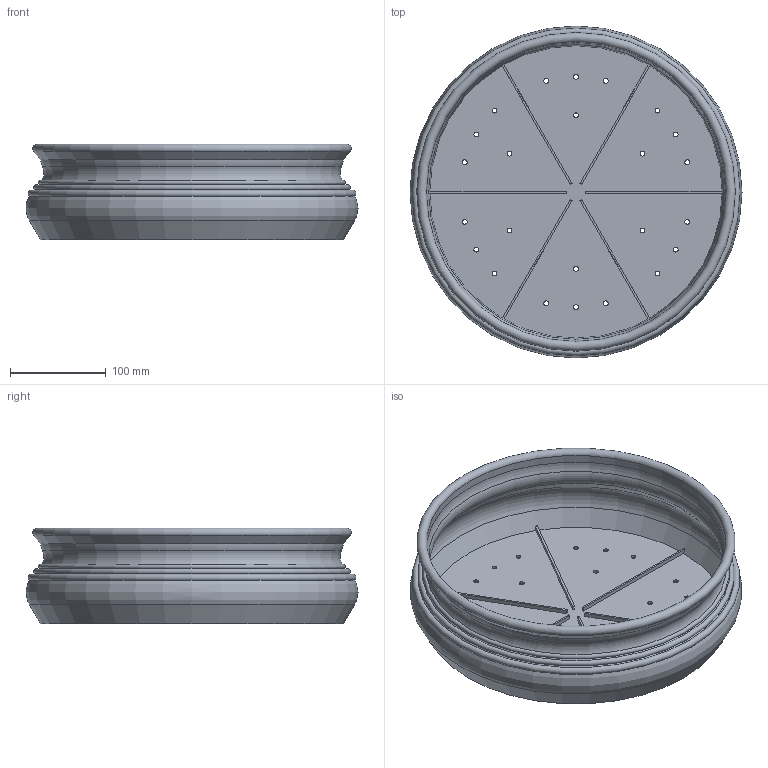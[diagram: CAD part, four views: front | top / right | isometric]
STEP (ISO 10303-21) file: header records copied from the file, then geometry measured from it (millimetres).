
FILE_DESCRIPTION(/* description */ (''),/* implementation_level */ '2;1');
FILE_NAME(/* name */ 'LR2406-S20-H100-D350_step.step',/* time_stamp */ '2024-02-01T11:01:36+01:00',/* author */ (''),/* organization */ (''),/* preprocessor_version */ 'ST-DEVELOPER v20',/* originating_system */ 'Autodesk Translation Framework v12.20.1.177',/* authorisation */ '');
FILE_SCHEMA (('AUTOMOTIVE_DESIGN { 1 0 10303 214 3 1 1 }'));
Length unit declared in the file: millimetre
Products named in the file (1): LR2406-S20-H100-D350
Bounding box: 346 x 346 x 100 mm (x, y, z)
Volume: 513847.2 mm3; surface area: 401451.9 mm2
Topology: 1 solids, 1 shells, 67 faces, 179 edges, 114 vertices
Faces by surface type: cylinder 31, plane 20, torus 10, cone 6
Full cylindrical faces by diameter (mm): 5 x24, 312 x1
Entity records: 2261 total; most frequent: DIRECTION 415, CARTESIAN_POINT 361, ORIENTED_EDGE 358, EDGE_CURVE 179, AXIS2_PLACEMENT_3D 168, EDGE_LOOP 115, VERTEX_POINT 114, CIRCLE 100
